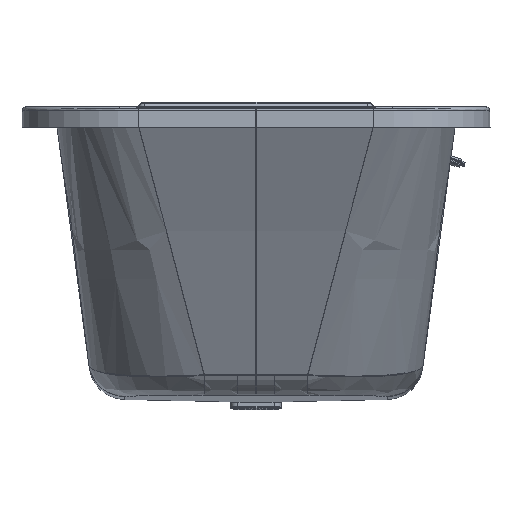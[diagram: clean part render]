
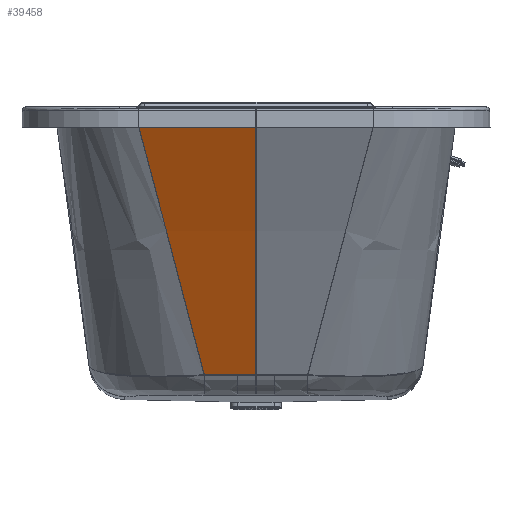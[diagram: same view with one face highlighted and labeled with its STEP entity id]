
A CAD part, left-side view. The second image highlights one B-rep face of the part: STEP entity #39458.
In plain terms, the highlighted free-form (B-spline) face has degree [2, 1] with [5, 2] control points.
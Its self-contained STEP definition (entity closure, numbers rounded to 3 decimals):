
#21734=CARTESIAN_POINT('',(-616.805,0.734,-458.835));
#21735=VERTEX_POINT('',#21734);
#21817=CARTESIAN_POINT('',(-839.7,0.734,-33.56));
#21818=VERTEX_POINT('',#21817);
#23678=CARTESIAN_POINT('',(-616.839,88.33,-458.768));
#23679=VERTEX_POINT('',#23678);
#23772=CARTESIAN_POINT('',(-616.805,31.58,-458.835));
#23773=VERTEX_POINT('',#23772);
#23781=CARTESIAN_POINT('',(-616.805,31.58,-458.835));
#23782=CARTESIAN_POINT('',(-616.805,40.278,-458.835));
#23783=CARTESIAN_POINT('',(-616.81,59.194,-458.824));
#23784=CARTESIAN_POINT('',(-616.827,78.111,-458.792));
#23785=CARTESIAN_POINT('',(-616.839,88.33,-458.768));
#23786=B_SPLINE_CURVE_WITH_KNOTS('',3,(#23781,#23782,#23783,#23784,#23785),.UNSPECIFIED.,.F.,.U.,(4,1,4),(0.0,26.223,57.033),.UNSPECIFIED.);
#23787=EDGE_CURVE('',#23773,#23679,#23786,.T.);
#23805=CARTESIAN_POINT('',(-616.805,0.734,-458.835));
#23806=DIRECTION('',(0.0,1.0,0.0));
#23807=VECTOR('',#23806,30.846);
#23808=LINE('',#23805,#23807);
#23809=EDGE_CURVE('',#21735,#23773,#23808,.T.);
#23934=CARTESIAN_POINT('',(-839.7,200.544,-33.56));
#23935=VERTEX_POINT('',#23934);
#23943=CARTESIAN_POINT('',(-839.7,200.544,-33.56));
#23944=DIRECTION('',(0.0,-1.0,0.0));
#23945=VECTOR('',#23944,199.809);
#23946=LINE('',#23943,#23945);
#23947=EDGE_CURVE('',#23935,#21818,#23946,.T.);
#39286=CARTESIAN_POINT('',(-742.87,153.104,-211.955));
#39287=VERTEX_POINT('',#39286);
#39288=CARTESIAN_POINT('',(-616.839,88.33,-458.768));
#39289=CARTESIAN_POINT('',(-628.863,94.521,-435.169));
#39290=CARTESIAN_POINT('',(-640.887,100.713,-411.57));
#39291=CARTESIAN_POINT('',(-652.912,106.903,-387.971));
#39292=CARTESIAN_POINT('',(-664.936,113.093,-364.371));
#39293=CARTESIAN_POINT('',(-676.96,119.289,-340.773));
#39294=CARTESIAN_POINT('',(-692.626,127.353,-310.026));
#39295=CARTESIAN_POINT('',(-708.292,135.419,-279.28));
#39296=CARTESIAN_POINT('',(-711.936,137.294,-272.134));
#39297=CARTESIAN_POINT('',(-715.576,139.17,-264.986));
#39298=CARTESIAN_POINT('',(-719.21,141.045,-257.835));
#39299=CARTESIAN_POINT('',(-725.177,144.106,-246.168));
#39300=CARTESIAN_POINT('',(-731.174,147.167,-234.516));
#39301=CARTESIAN_POINT('',(-733.504,148.355,-229.999));
#39302=CARTESIAN_POINT('',(-735.839,149.542,-225.485));
#39303=CARTESIAN_POINT('',(-738.178,150.729,-220.972));
#39304=CARTESIAN_POINT('',(-740.522,151.917,-216.463));
#39305=CARTESIAN_POINT('',(-742.87,153.104,-211.955));
#39306=B_SPLINE_CURVE_WITH_KNOTS('',7,(#39288,#39289,#39290,#39291,#39292,#39293,#39294,#39295,#39296,#39297,#39298,#39299,#39300,#39301,#39302,#39303,#39304,#39305),.UNSPECIFIED.,.F.,.U.,(8,5,5,8),(0.072,0.43,0.538,0.607),.UNSPECIFIED.);
#39307=EDGE_CURVE('',#23679,#39287,#39306,.T.);
#39309=CARTESIAN_POINT('',(-838.887,200.157,-35.0));
#39310=VERTEX_POINT('',#39309);
#39311=CARTESIAN_POINT('',(-742.87,153.104,-211.955));
#39312=CARTESIAN_POINT('',(-756.16,159.824,-186.446));
#39313=CARTESIAN_POINT('',(-769.592,166.545,-161.013));
#39314=CARTESIAN_POINT('',(-783.168,173.266,-135.655));
#39315=CARTESIAN_POINT('',(-796.886,179.983,-110.373));
#39316=CARTESIAN_POINT('',(-810.745,186.707,-85.169));
#39317=CARTESIAN_POINT('',(-824.746,193.431,-60.045));
#39318=CARTESIAN_POINT('',(-838.887,200.157,-35.));
#39319=B_SPLINE_CURVE_WITH_KNOTS('',7,(#39311,#39312,#39313,#39314,#39315,#39316,#39317,#39318),.UNSPECIFIED.,.F.,.U.,(8,8),(0.607,0.995),.UNSPECIFIED.);
#39320=EDGE_CURVE('',#39287,#39310,#39319,.T.);
#39322=CARTESIAN_POINT('',(-838.887,200.157,-35.));
#39323=CARTESIAN_POINT('',(-839.003,200.212,-34.794));
#39324=CARTESIAN_POINT('',(-839.119,200.268,-34.589));
#39325=CARTESIAN_POINT('',(-839.235,200.323,-34.383));
#39326=CARTESIAN_POINT('',(-839.352,200.378,-34.177));
#39327=CARTESIAN_POINT('',(-839.468,200.433,-33.972));
#39328=CARTESIAN_POINT('',(-839.584,200.489,-33.766));
#39329=CARTESIAN_POINT('',(-839.7,200.544,-33.56));
#39330=B_SPLINE_CURVE_WITH_KNOTS('',7,(#39322,#39323,#39324,#39325,#39326,#39327,#39328,#39329),.UNSPECIFIED.,.F.,.U.,(8,8),(0.995,0.998),.UNSPECIFIED.);
#39331=EDGE_CURVE('',#39310,#23935,#39330,.T.);
#39387=CARTESIAN_POINT('',(-839.705,0.734,-33.552));
#39388=CARTESIAN_POINT('',(-776.483,0.734,-145.449));
#39389=CARTESIAN_POINT('',(-718.135,0.734,-259.964));
#39390=CARTESIAN_POINT('',(-667.468,0.734,-359.404));
#39391=CARTESIAN_POINT('',(-616.8,0.734,-458.843));
#39392=CARTESIAN_POINT('',(-839.705,200.554,-33.552));
#39393=CARTESIAN_POINT('',(-776.483,200.554,-145.449));
#39394=CARTESIAN_POINT('',(-718.135,200.554,-259.964));
#39395=CARTESIAN_POINT('',(-667.468,200.554,-359.404));
#39396=CARTESIAN_POINT('',(-616.8,200.554,-458.843));
#39404=(BOUNDED_SURFACE()B_SPLINE_SURFACE(2,1,((#39387,#39392),(#39388,#39393),(#39389,#39394),(#39390,#39395),(#39391,#39396)),.UNSPECIFIED.,.F.,.F.,.U.)B_SPLINE_SURFACE_WITH_KNOTS((3,2,3),(2,2),(0.809,259.1,483.424),(0.0,1.0),.UNSPECIFIED.)GEOMETRIC_REPRESENTATION_ITEM()RATIONAL_B_SPLINE_SURFACE(((1.,1.),(1.,1.),(1.0,1.0),(1.0,1.0),(1.0,1.0)))REPRESENTATION_ITEM('')SURFACE());
#39405=CARTESIAN_POINT('',(-838.887,0.734,-35.0));
#39406=VERTEX_POINT('',#39405);
#39407=CARTESIAN_POINT('',(-742.87,0.734,-211.955));
#39408=VERTEX_POINT('',#39407);
#39409=CARTESIAN_POINT('',(-838.887,0.734,-35.));
#39410=CARTESIAN_POINT('',(-789.387,0.734,-122.668));
#39411=CARTESIAN_POINT('',(-742.87,0.734,-211.955));
#39419=(BOUNDED_CURVE()B_SPLINE_CURVE(2,(#39409,#39410,#39411),.UNSPECIFIED.,.F.,.U.)B_SPLINE_CURVE_WITH_KNOTS((3,3),(2.481,204.822),.UNSPECIFIED.)CURVE()GEOMETRIC_REPRESENTATION_ITEM()RATIONAL_B_SPLINE_CURVE((1.,1.,1.))REPRESENTATION_ITEM(''));
#39420=EDGE_CURVE('',#39406,#39408,#39419,.T.);
#39421=ORIENTED_EDGE('',*,*,#39420,.F.);
#39422=CARTESIAN_POINT('',(-839.7,0.734,-33.56));
#39423=CARTESIAN_POINT('',(-839.293,0.734,-34.28));
#39424=CARTESIAN_POINT('',(-838.887,0.734,-35.));
#39432=(BOUNDED_CURVE()B_SPLINE_CURVE(2,(#39422,#39423,#39424),.UNSPECIFIED.,.F.,.U.)B_SPLINE_CURVE_WITH_KNOTS((3,3),(0.819,2.481),.UNSPECIFIED.)CURVE()GEOMETRIC_REPRESENTATION_ITEM()RATIONAL_B_SPLINE_CURVE((1.,1.,1.))REPRESENTATION_ITEM(''));
#39433=EDGE_CURVE('',#21818,#39406,#39432,.T.);
#39434=ORIENTED_EDGE('',*,*,#39433,.F.);
#39435=ORIENTED_EDGE('',*,*,#23947,.F.);
#39436=ORIENTED_EDGE('',*,*,#39331,.F.);
#39437=ORIENTED_EDGE('',*,*,#39320,.F.);
#39438=ORIENTED_EDGE('',*,*,#39307,.F.);
#39439=ORIENTED_EDGE('',*,*,#23787,.F.);
#39440=ORIENTED_EDGE('',*,*,#23809,.F.);
#39441=CARTESIAN_POINT('',(-742.87,0.734,-211.955));
#39442=CARTESIAN_POINT('',(-730.394,0.734,-235.904));
#39443=CARTESIAN_POINT('',(-718.135,0.734,-259.964));
#39444=CARTESIAN_POINT('',(-667.47,0.734,-359.399));
#39445=CARTESIAN_POINT('',(-616.805,0.734,-458.835));
#39453=(BOUNDED_CURVE()B_SPLINE_CURVE(2,(#39441,#39442,#39443,#39444,#39445),.UNSPECIFIED.,.F.,.U.)B_SPLINE_CURVE_WITH_KNOTS((3,2,3),(204.822,259.1,483.414),.UNSPECIFIED.)CURVE()GEOMETRIC_REPRESENTATION_ITEM()RATIONAL_B_SPLINE_CURVE((1.,1.,1.0,1.0,1.0))REPRESENTATION_ITEM(''));
#39454=EDGE_CURVE('',#39408,#21735,#39453,.T.);
#39455=ORIENTED_EDGE('',*,*,#39454,.F.);
#39456=EDGE_LOOP('',(#39421,#39434,#39435,#39436,#39437,#39438,#39439,#39440,#39455));
#39457=FACE_OUTER_BOUND('',#39456,.T.);
#39458=ADVANCED_FACE('',(#39457),#39404,.F.);
